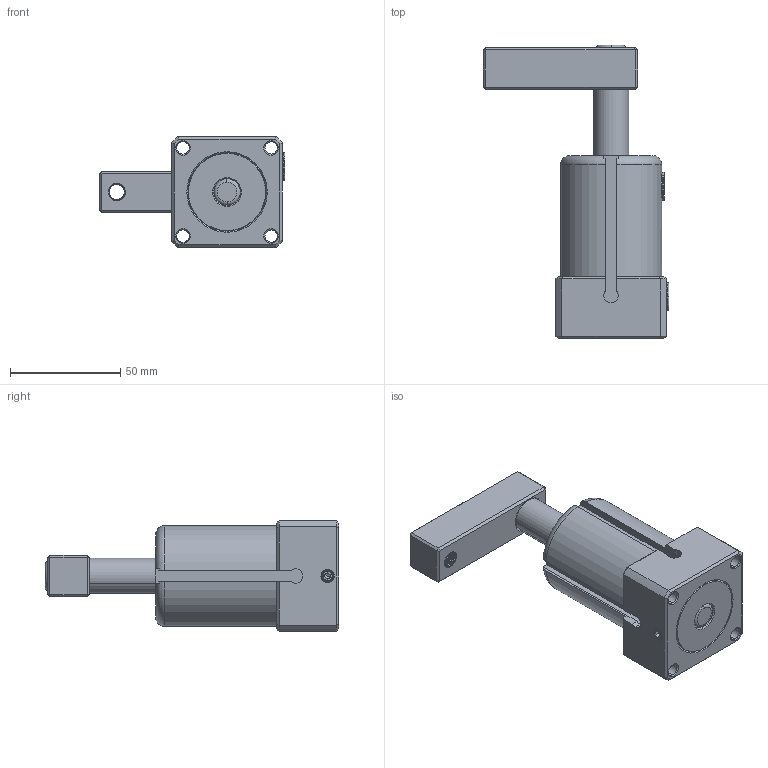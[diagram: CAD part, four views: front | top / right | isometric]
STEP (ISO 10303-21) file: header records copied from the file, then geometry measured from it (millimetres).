
FILE_DESCRIPTION (( 'STEP AP203' ), '1' );
FILE_NAME ('ASC-MS32SR空压转角缸.STEP', '2013-06-20T07:48:27', ( '微软用户' ), ( '微软中国' ), 'SwSTEP 2.0', 'SolidWorks 2010', '' );
FILE_SCHEMA (( 'CONFIG_CONTROL_DESIGN' ));
Products named in the file (12): 活塞杆; Hexagon socket head cap screws GB_GB_FASTENER_SCREWS_HSHCS M8X20-S; 活塞密封; ASC-MS32SR諾揤蛌褒詰; 掛极; 綴裔; 埴翐种; S裝11; 滅鳥猾; Hex socket set screws with flat point GB_GB_FASTENER_SCREWS_HSFP M5X5-S; 1-8黑芛11; 揤旋
Assembly tree (16 placements, depth 2):
  ASC-MS32SR諾揤蛌褒詰
    滅鳥猾
    活塞杆
    綴裔
    1-8黑芛11  x2
    Hex socket set screws with flat point GB_GB_FASTENER_SCREWS_HSFP M5X5-S  x5
    Hexagon socket head cap screws GB_GB_FASTENER_SCREWS_HSHCS M8X20-S
    揤旋
    掛极
    S裝11
    活塞密封
    埴翐种
Bounding box: 84.2 x 133 x 50 mm (x, y, z)
Volume: 154911.6 mm3; surface area: 64551.9 mm2
Topology: 18 solids, 18 shells, 1375 faces, 3288 edges, 1964 vertices
Faces by surface type: cylinder 559, cone 403, plane 211, torus 105, bspline 97
Entity records: 63443 total; most frequent: CARTESIAN_POINT 39145, ORIENTED_EDGE 5268, DIRECTION 4396, EDGE_CURVE 2634, AXIS2_PLACEMENT_3D 1745, VERTEX_POINT 1622, EDGE_LOOP 1134, ADVANCED_FACE 1064
